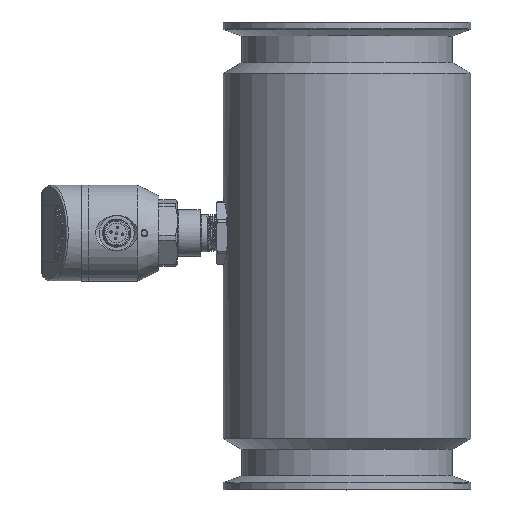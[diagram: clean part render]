
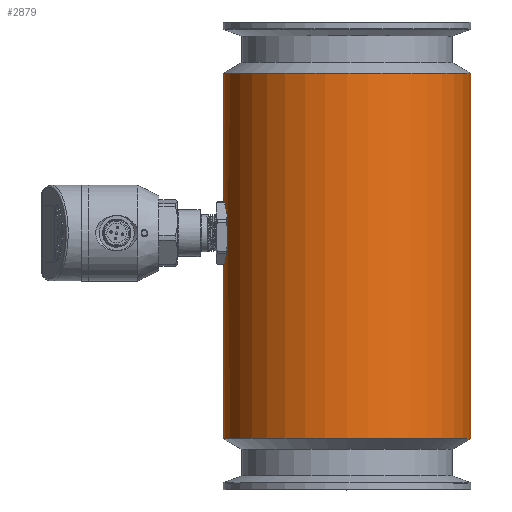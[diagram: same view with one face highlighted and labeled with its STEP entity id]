
A CAD part, top view. The second image highlights one B-rep face of the part: STEP entity #2879.
In plain terms, the highlighted cylindrical face has radius 53 mm (diameter 106 mm), a full revolution.
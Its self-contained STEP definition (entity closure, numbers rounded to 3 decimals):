
#1863=LINE('',#11824,#2255);
#1864=LINE('',#11838,#2256);
#2255=VECTOR('',#9693,1.);
#2256=VECTOR('',#9694,1.);
#2647=FACE_BOUND('',#3873,.T.);
#2648=FACE_BOUND('',#3874,.T.);
#2649=FACE_BOUND('',#3875,.T.);
#2879=ADVANCED_FACE('',(#2647,#2648,#2649),#3350,.T.);
#3350=CYLINDRICAL_SURFACE('',#8821,53.);
#3873=EDGE_LOOP('',(#4655));
#3874=EDGE_LOOP('',(#4656));
#3875=EDGE_LOOP('',(#4657,#4658,#4659,#4660));
#4466=B_SPLINE_CURVE_WITH_KNOTS('',3,(#11827,#11828,#11829,#11830,#11831,
#11832,#11833,#11834,#11835,#11836),.UNSPECIFIED.,.F.,.F.,(4,2,2,2,4),(0.,
0.25,0.5,0.75,1.),.UNSPECIFIED.);
#4467=B_SPLINE_CURVE_WITH_KNOTS('',3,(#11840,#11841,#11842,#11843,#11844,
#11845,#11846,#11847,#11848,#11849),.UNSPECIFIED.,.F.,.F.,(4,2,2,2,4),(0.,
0.25,0.5,0.75,1.),.UNSPECIFIED.);
#4655=ORIENTED_EDGE('',*,*,#7367,.T.);
#4656=ORIENTED_EDGE('',*,*,#7368,.T.);
#4657=ORIENTED_EDGE('',*,*,#7369,.F.);
#4658=ORIENTED_EDGE('',*,*,#7370,.T.);
#4659=ORIENTED_EDGE('',*,*,#7371,.F.);
#4660=ORIENTED_EDGE('',*,*,#7372,.T.);
#6693=VERTEX_POINT('',#11821);
#6694=VERTEX_POINT('',#11823);
#6695=VERTEX_POINT('',#11825);
#6696=VERTEX_POINT('',#11826);
#6697=VERTEX_POINT('',#11837);
#6698=VERTEX_POINT('',#11839);
#7367=EDGE_CURVE('',#6693,#6693,#8385,.T.);
#7368=EDGE_CURVE('',#6694,#6694,#8386,.T.);
#7369=EDGE_CURVE('',#6695,#6696,#1863,.T.);
#7370=EDGE_CURVE('',#6695,#6697,#4466,.T.);
#7371=EDGE_CURVE('',#6698,#6697,#1864,.T.);
#7372=EDGE_CURVE('',#6698,#6696,#4467,.T.);
#8385=CIRCLE('',#8819,53.);
#8386=CIRCLE('',#8820,53.);
#8819=AXIS2_PLACEMENT_3D('',#11820,#9689,#9690);
#8820=AXIS2_PLACEMENT_3D('',#11822,#9691,#9692);
#8821=AXIS2_PLACEMENT_3D('',#11850,#9695,#9696);
#9689=DIRECTION('',(0.,1.,0.));
#9690=DIRECTION('',(0.,0.,1.));
#9691=DIRECTION('',(0.,-1.,0.));
#9692=DIRECTION('',(0.,0.,-1.));
#9693=DIRECTION('',(0.,-1.,0.));
#9694=DIRECTION('',(0.,1.,0.));
#9695=DIRECTION('',(0.,1.,0.));
#9696=DIRECTION('',(0.,0.,1.));
#11820=CARTESIAN_POINT('',(0.,-171.716,0.));
#11821=CARTESIAN_POINT('',(0.,-171.716,53.));
#11822=CARTESIAN_POINT('',(0.,-15.484,0.));
#11823=CARTESIAN_POINT('',(0.,-15.484,-53.));
#11824=CARTESIAN_POINT('',(-51.,-207.2,-14.422));
#11825=CARTESIAN_POINT('',(-51.,-77.981,-14.422));
#11826=CARTESIAN_POINT('',(-51.,-89.702,-14.422));
#11827=CARTESIAN_POINT('',(-51.,-77.981,-14.422));
#11828=CARTESIAN_POINT('',(-51.337,-75.143,-13.232));
#11829=CARTESIAN_POINT('',(-51.868,-72.738,-11.197));
#11830=CARTESIAN_POINT('',(-52.709,-69.403,-6.117));
#11831=CARTESIAN_POINT('',(-53.,-68.49,-3.092));
#11832=CARTESIAN_POINT('',(-53.,-68.489,3.081));
#11833=CARTESIAN_POINT('',(-52.708,-69.405,6.121));
#11834=CARTESIAN_POINT('',(-51.868,-72.734,11.194));
#11835=CARTESIAN_POINT('',(-51.337,-75.144,13.23));
#11836=CARTESIAN_POINT('',(-51.,-77.982,14.422));
#11837=CARTESIAN_POINT('',(-51.,-77.982,14.422));
#11838=CARTESIAN_POINT('',(-51.,-207.2,14.422));
#11839=CARTESIAN_POINT('',(-51.,-89.702,14.422));
#11840=CARTESIAN_POINT('',(-51.,-89.702,14.422));
#11841=CARTESIAN_POINT('',(-51.338,-92.539,13.229));
#11842=CARTESIAN_POINT('',(-51.868,-94.949,11.197));
#11843=CARTESIAN_POINT('',(-52.709,-98.282,6.117));
#11844=CARTESIAN_POINT('',(-53.,-99.192,3.091));
#11845=CARTESIAN_POINT('',(-53.,-99.196,-3.083));
#11846=CARTESIAN_POINT('',(-52.708,-98.278,-6.122));
#11847=CARTESIAN_POINT('',(-51.868,-94.949,-11.195));
#11848=CARTESIAN_POINT('',(-51.337,-92.539,-13.23));
#11849=CARTESIAN_POINT('',(-51.,-89.702,-14.422));
#11850=CARTESIAN_POINT('',(0.,-207.2,0.));
